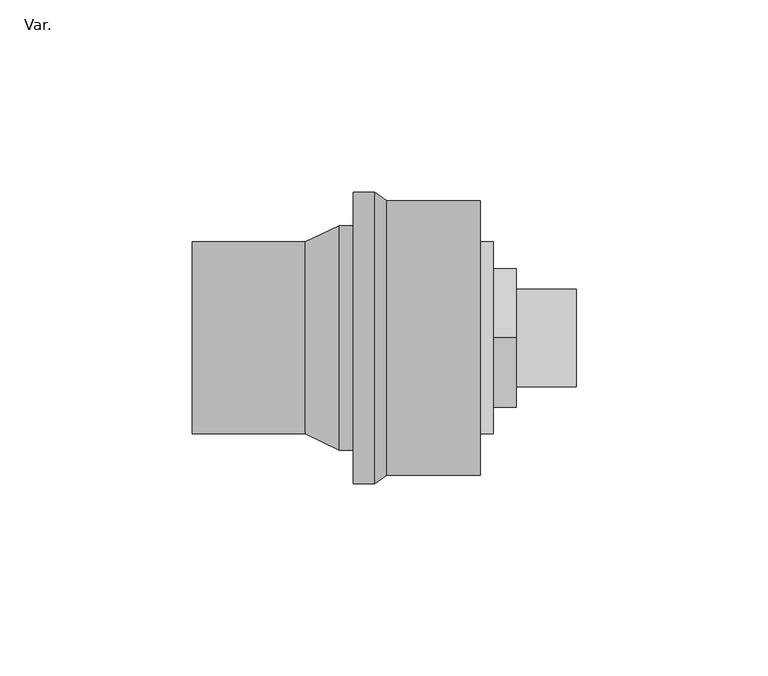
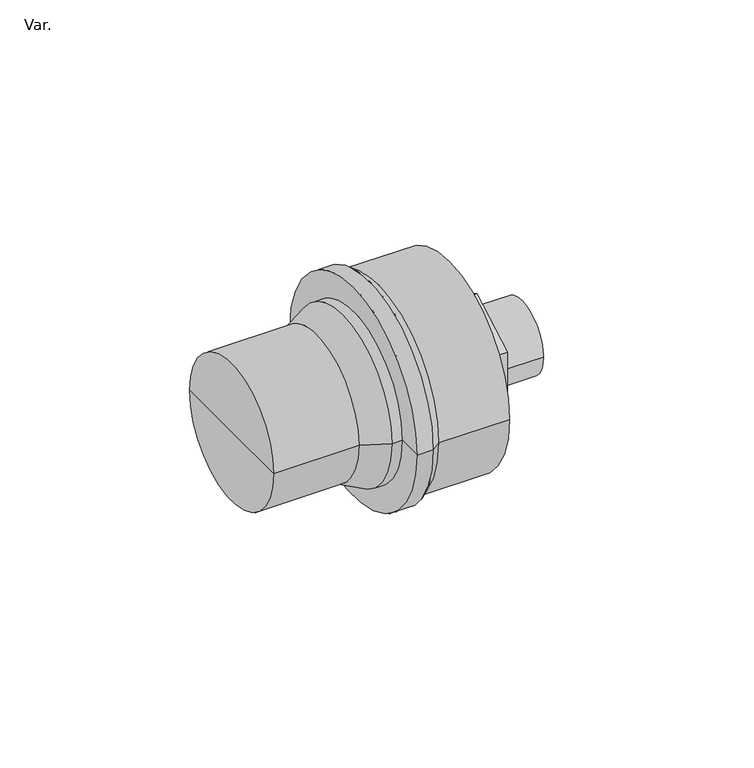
"""IFC4 building model written with IfcOpenShell, lengths in millimetres: pipe fitting geometry, NLRS_52_PIF_UN_HDPE threaded connector_Akatherm : Var.."""

from ifc_helpers import new_model, si_unit, point, frame, origin, origin_2d, place, context, project, spatial, polyline, circle_curve, trimmed, segment, composite_curve, outline, extrude, source, transform, mapped, element, save
from ifc_brep_helpers import plane_surface, cylinder_surface, revolved_surface, advanced_brep


def var_98dd62a4(model_context):
    return source(origin(), model_context, "Body", "SolidModel", [
        extrude(outline(composite_curve([segment(trimmed(circle_curve(origin_2d(), 12.7), [point((-12.7, 0.0))], [point((12.7, 0.0))], False, "CARTESIAN"), True, "CONTINUOUS"), segment(trimmed(circle_curve(origin_2d(), 12.7), [point((12.7, 0.0))], [point((-12.7, 0.0))], False, "CARTESIAN"), True, "CONTINUOUS")], self_intersect=False)), frame((34.5, 0.0, 0.0), z_axis=(1.0, 0.0, 0.0), x_axis=(0.0, 1.0, 0.0)), (0.0, 0.0, 1.0), 15.5),
        extrude(outline(composite_curve([segment(trimmed(circle_curve(origin_2d(), 25.0), [point((-25.0, 0.0))], [point((25.0, 0.0))], False, "CARTESIAN"), True, "CONTINUOUS"), segment(trimmed(circle_curve(origin_2d(), 25.0), [point((25.0, 0.0))], [point((-25.0, 0.0))], False, "CARTESIAN"), True, "CONTINUOUS")], self_intersect=False)), frame((25.0, 0.0, 0.0), z_axis=(1.0, 0.0, 0.0), x_axis=(0.0, 1.0, 0.0)), (0.0, 0.0, 1.0), 3.5),
        extrude(outline(polyline([(0.0, 20.7846097), (18.0, 10.3923048), (18.0, -10.3923048), (0.0, -20.7846097), (-18.0, -10.3923048), (-18.0, 10.3923048), (0.0, 20.7846097)])), frame((28.5, 0.0, 0.0), z_axis=(1.0, 0.0, 0.0), x_axis=(0.0, 1.0, 0.0)), (0.0, 0.0, 1.0), 6.0),
        advanced_brep(
        [(-50.0, 0.0, 0.0), (-50.0, 25.0, 0.0), (-50.0, -25.0, 0.0), (25.0, -35.75, 0.0), (25.0, 35.75, 0.0), (25.0, 0.0, 0.0), (0.7, -35.75, 0.0), (0.7, 35.75, 0.0), (-2.4, -38.0, 0.0), (-2.4, 38.0, 0.0), (-8.0, -38.0, 0.0), (-8.0, 38.0, 0.0), (-8.0, -29.25, 0.0), (-8.0, 29.25, 0.0), (-11.6, -29.25, 0.0), (-11.6, 29.25, 0.0), (-20.5, -25.0, 0.0), (-20.5, 25.0, 0.0)],
        [
            (0, 1),
            (1, 2, circle_curve(frame((-50.0, 0.0, 0.0), z_axis=(-1.0, 0.0, 0.0), x_axis=(0.0, 1.0, 0.0)), 25.0)),
            (2, 0),
            (2, 1, circle_curve(frame((-50.0, 0.0, 0.0), z_axis=(-1.0, 0.0, 0.0), x_axis=(0.0, 1.0, 0.0)), 25.0)),
            (3, 4, circle_curve(frame((25.0, 0.0, 0.0), z_axis=(1.0, 0.0, 0.0), x_axis=(0.0, 1.0, 0.0)), 35.75)),
            (4, 5),
            (5, 3),
            (4, 3, circle_curve(frame((25.0, 0.0, 0.0), z_axis=(1.0, 0.0, 0.0), x_axis=(0.0, 1.0, 0.0)), 35.75)),
            (6, 7, circle_curve(frame((0.7, 0.0, 0.0), z_axis=(1.0, 0.0, 0.0), x_axis=(0.0, 1.0, 0.0)), 35.75)),
            (7, 4),
            (3, 6),
            (7, 6, circle_curve(frame((0.7, 0.0, 0.0), z_axis=(1.0, 0.0, 0.0), x_axis=(0.0, 1.0, 0.0)), 35.75)),
            (8, 9, circle_curve(frame((-2.4, 0.0, 0.0), z_axis=(1.0, 0.0, 0.0), x_axis=(0.0, 1.0, 0.0)), 38.0)),
            (9, 7),
            (6, 8),
            (9, 8, circle_curve(frame((-2.4, 0.0, 0.0), z_axis=(1.0, 0.0, 0.0), x_axis=(0.0, 1.0, 0.0)), 38.0)),
            (10, 11, circle_curve(frame((-8.0, 0.0, 0.0), z_axis=(1.0, 0.0, 0.0), x_axis=(0.0, 1.0, 0.0)), 38.0)),
            (11, 9),
            (8, 10),
            (11, 10, circle_curve(frame((-8.0, 0.0, 0.0), z_axis=(1.0, 0.0, 0.0), x_axis=(0.0, 1.0, 0.0)), 38.0)),
            (12, 13, circle_curve(frame((-8.0, 0.0, 0.0), z_axis=(1.0, 0.0, 0.0), x_axis=(0.0, 1.0, 0.0)), 29.25)),
            (13, 11),
            (10, 12),
            (13, 12, circle_curve(frame((-8.0, 0.0, 0.0), z_axis=(1.0, 0.0, 0.0), x_axis=(0.0, 1.0, 0.0)), 29.25)),
            (14, 15, circle_curve(frame((-11.6, 0.0, 0.0), z_axis=(1.0, 0.0, 0.0), x_axis=(0.0, 1.0, 0.0)), 29.25)),
            (15, 13),
            (12, 14),
            (15, 14, circle_curve(frame((-11.6, 0.0, 0.0), z_axis=(1.0, 0.0, 0.0), x_axis=(0.0, 1.0, 0.0)), 29.25)),
            (16, 17, circle_curve(frame((-20.5, 0.0, 0.0), z_axis=(1.0, 0.0, 0.0), x_axis=(0.0, 1.0, 0.0)), 25.0)),
            (17, 15),
            (14, 16),
            (17, 16, circle_curve(frame((-20.5, 0.0, 0.0), z_axis=(1.0, 0.0, 0.0), x_axis=(0.0, 1.0, 0.0)), 25.0)),
            (1, 17),
            (16, 2),
        ],
        [
            plane_surface(frame((-50.0, 0.0, 0.0), z_axis=(-1.0, 0.0, 0.0), x_axis=(0.0, 1.0, 0.0))),
            plane_surface(frame((25.0, 0.0, 0.0), z_axis=(1.0, 0.0, 0.0), x_axis=(0.0, 1.0, 0.0))),
            cylinder_surface(frame((174.3223305, 0.0, 0.0), z_axis=(-1.0, 0.0, 0.0), x_axis=(0.0, 1.0, 0.0)), 35.75),
            revolved_surface(polyline([(0.7, 35.75, 0.0), (-2.4, 38.0, 0.0)]), (174.3223305, 0.0, 0.0), (-1.0, 0.0, 0.0)),
            cylinder_surface(frame((174.3223305, 0.0, 0.0), z_axis=(-1.0, 0.0, 0.0), x_axis=(0.0, 1.0, 0.0)), 38.0),
            plane_surface(frame((-8.0, 0.0, 0.0), z_axis=(-1.0, 0.0, 0.0), x_axis=(0.0, 1.0, 0.0))),
            cylinder_surface(frame((174.3223305, 0.0, 0.0), z_axis=(-1.0, 0.0, 0.0), x_axis=(0.0, 1.0, 0.0)), 29.25),
            revolved_surface(polyline([(-11.6, 29.25, 0.0), (-20.5, 25.0, 0.0)]), (174.3223305, 0.0, 0.0), (-1.0, 0.0, 0.0)),
            cylinder_surface(frame((174.3223305, 0.0, 0.0), z_axis=(-1.0, 0.0, 0.0), x_axis=(0.0, 1.0, 0.0)), 25.0),
        ],
        [
            (0, [[1, 2, 3]]),
            (0, [[-3, 4, -1]]),
            (1, [[5, 6, 7]]),
            (1, [[8, -7, -6]]),
            (2, [[9, 10, -5, 11]]),
            (2, [[12, -11, -8, -10]]),
            (3, [[13, 14, -9, 15]]),
            (3, [[16, -15, -12, -14]]),
            (4, [[17, 18, -13, 19]]),
            (4, [[20, -19, -16, -18]]),
            (5, [[21, 22, -17, 23]]),
            (5, [[24, -23, -20, -22]]),
            (6, [[25, 26, -21, 27]]),
            (6, [[28, -27, -24, -26]]),
            (7, [[29, 30, -25, 31]]),
            (7, [[32, -31, -28, -30]]),
            (8, [[-2, 33, -29, 34]]),
            (8, [[-4, -34, -32, -33]]),
        ],
    ),
    ])


if __name__ == "__main__":
    model = new_model("IFC4")
    model_context = context("Model", 3, world=origin())
    ifc_project = project(units=[si_unit("LENGTHUNIT", "METRE", prefix="MILLI")], contexts=[model_context])
    site = spatial("IfcSite", under=ifc_project)
    building = spatial("IfcBuilding", under=site)
    placement = place(None, origin())
    var_shape = var_98dd62a4(model_context)
    element("IfcPipeFitting", 1, ObjectType="NLRS_52_PIF_UN_HDPE threaded connector_Akatherm : Var.", at=placement, inside=building, context=model_context, shape_type="MappedRepresentation", body=[
        mapped(var_shape, transform((0.0, 0.0, 0.0), x_axis=(1.0, 0.0, 0.0), y_axis=(0.0, 1.0, 0.0), z_axis=(0.0, 0.0, 1.0))),
    ])
    save(model, "model.ifc")
